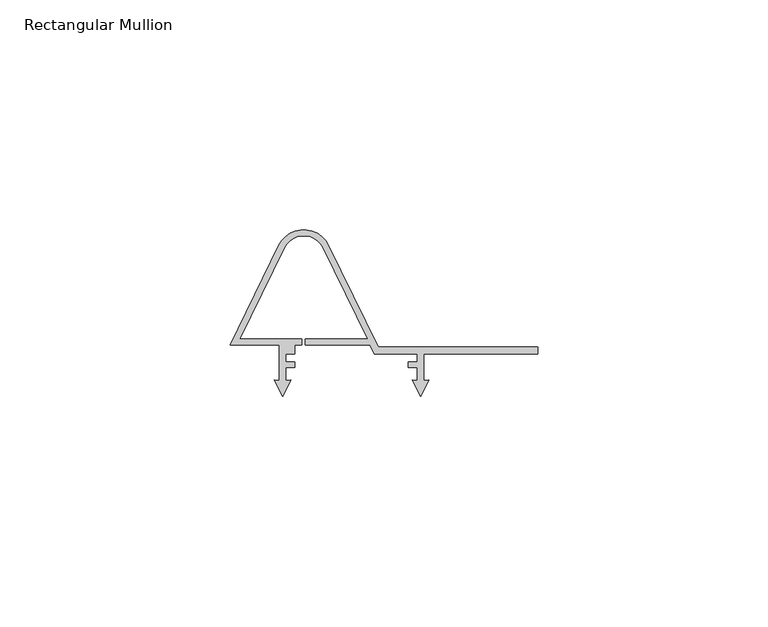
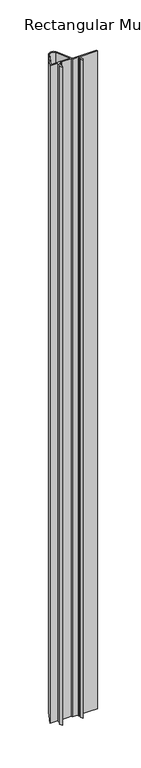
"""IFC4 building model written with IfcOpenShell, lengths in millimetres: member geometry, Rectangular Mullion : Renson_Linarte_LA-CO-01."""

from ifc_helpers import new_model, si_unit, point, frame, frame_2d, origin, place, context, project, spatial, polyline, circle_curve, trimmed, segment, composite_curve, outline, extrude, source, transform, mapped, element, save


def rectangular_mullion_4ed10c42(model_context):
    return source(origin(), model_context, "Body", "SweptSolid", [
        extrude(outline(composite_curve([segment(polyline([(41.4001673, 25.0), (39.5844306, 28.5635874), (40.7001684, 28.465973), (40.7001684, 31.2), (38.7079043, 31.2), (38.7079043, 32.4), (40.700168, 32.4), (40.700168, 34.2), (31.2920456, 34.2), (30.3239483, 36.0999998), (16.3741469, 36.0999998), (16.3741469, 37.3999998), (29.9021735, 37.3999998), (20.2156362, 57.2603444)]), True, "CONTINUOUS"), segment(trimmed(circle_curve(frame_2d((15.9913042, 55.2)), 4.7), [point((20.2156362, 57.2603444))], [point((11.7669722, 57.2603444))], True, "CARTESIAN"), True, "CONTINUOUS"), segment(polyline([(11.7669722, 57.2603444), (2.0804349, 37.3999998), (15.6084615, 37.3999998), (15.6084615, 36.0999998), (14.0924315, 36.0999998), (14.0924315, 34.1999999), (12.1001674, 34.1999999), (12.1001674, 32.3999999), (14.0924315, 32.3999999), (14.0924315, 31.1999999), (12.1001674, 31.1999999), (12.1001674, 28.4659732), (13.2159038, 28.5635874), (11.4001673, 25.0), (9.5844307, 28.5635874), (10.7001672, 28.4659732), (10.7001672, 36.0999998), (0.0, 36.0999998), (10.5985399, 57.8302269)]), True, "CONTINUOUS"), segment(trimmed(circle_curve(frame_2d((15.9913042, 55.2)), 6.0), [point((10.5985399, 57.8302269))], [point((21.3840685, 57.8302268))], False, "CARTESIAN"), True, "CONTINUOUS"), segment(polyline([(21.3840685, 57.8302268), (32.1777013, 35.6999997), (66.9001673, 35.6999997), (66.9001673, 34.2), (42.1001682, 34.2), (42.1001682, 28.4659733), (43.2159039, 28.5635875), (41.4001673, 25.0)]), True, "CONTINUOUS")], self_intersect=False)), frame((0.0, 0.0, -1000.0), z_axis=(0.0, 0.0, 1.0), x_axis=(1.0, 0.0, 0.0)), (0.0, 0.0, 1.0), 1000.0),
    ])


if __name__ == "__main__":
    model = new_model("IFC4")
    model_context = context("Model", 3, world=origin())
    ifc_project = project(units=[si_unit("LENGTHUNIT", "METRE", prefix="MILLI")], contexts=[model_context])
    site = spatial("IfcSite", under=ifc_project)
    building = spatial("IfcBuilding", under=site)
    placement = place(None, origin())
    rectangular_mullion_shape = rectangular_mullion_4ed10c42(model_context)
    element("IfcMember", 1, ObjectType="Rectangular Mullion : Renson_Linarte_LA-CO-01", at=placement, inside=building, context=model_context, shape_type="MappedRepresentation", body=[
        mapped(rectangular_mullion_shape, transform((0.0, 0.0, 0.0), x_axis=(1.0, 0.0, 0.0), y_axis=(0.0, 1.0, 0.0), z_axis=(0.0, 0.0, 1.0))),
    ])
    save(model, "model.ifc")
